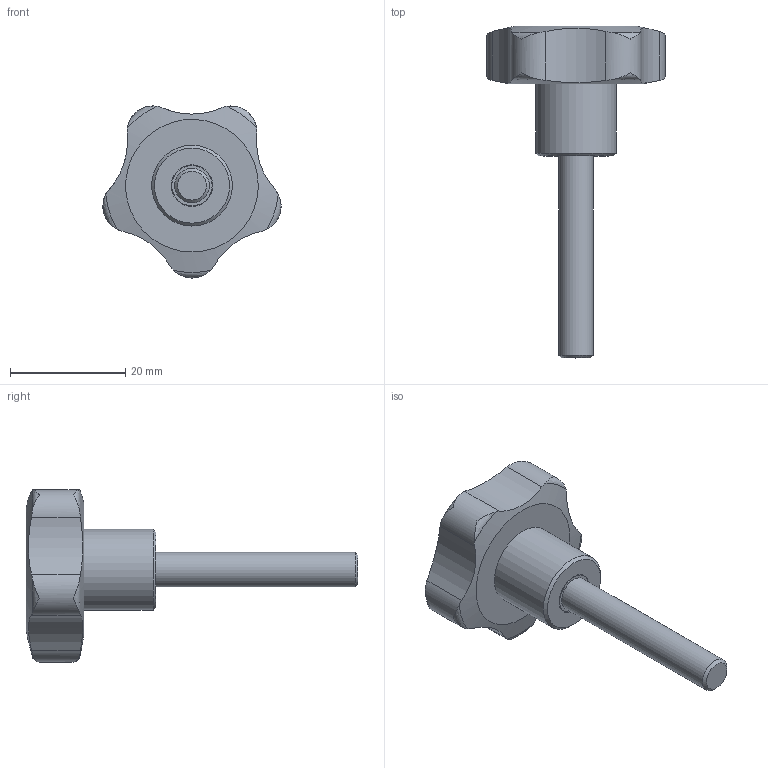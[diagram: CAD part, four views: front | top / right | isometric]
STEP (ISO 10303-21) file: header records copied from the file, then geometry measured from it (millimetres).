
FILE_DESCRIPTION( ( 'STEP AP203' ), '1' );
FILE_NAME( 'C:/Temp/Ganter_Step_05_03_2020/data/2_2/gn_5337_4/gn_5337_4_s/Star knob GN 5337.4-32-M6-35.stp', '2020-03-05T12:09:42', ( 'License CC BY-ND 4.0' ), ( 'CADENAS' ), ' ', 'PARTsolutions', ' ' );
FILE_SCHEMA( ( 'CONFIG_CONTROL_DESIGN' ) );
Length unit declared in the file: millimetre
Products named in the file (1): _Star knob GN 5337.4-32-M6-35
Bounding box: 30.87 x 57.5 x 29.8 mm (x, y, z)
Volume: 8805 mm3; surface area: 3293 mm2
Topology: 1 solids, 1 shells, 34 faces, 90 edges, 61 vertices
Faces by surface type: cylinder 14, torus 10, plane 5, cone 3, bspline 1, sphere 1
Full cylindrical faces by diameter (mm): 6 x1, 7 x1, 7.2 x1, 14 x1
Entity records: 1437 total; most frequent: CARTESIAN_POINT 674, ORIENTED_EDGE 154, DIRECTION 122, EDGE_CURVE 77, VERTEX_POINT 58, AXIS2_PLACEMENT_3D 56, EDGE_LOOP 46, B_SPLINE_CURVE_WITH_KNOTS 45
